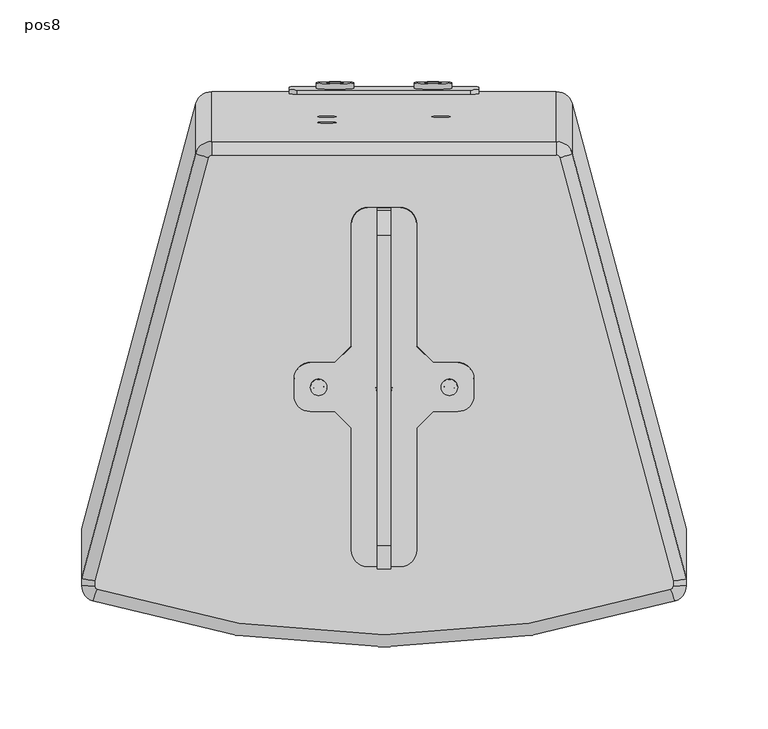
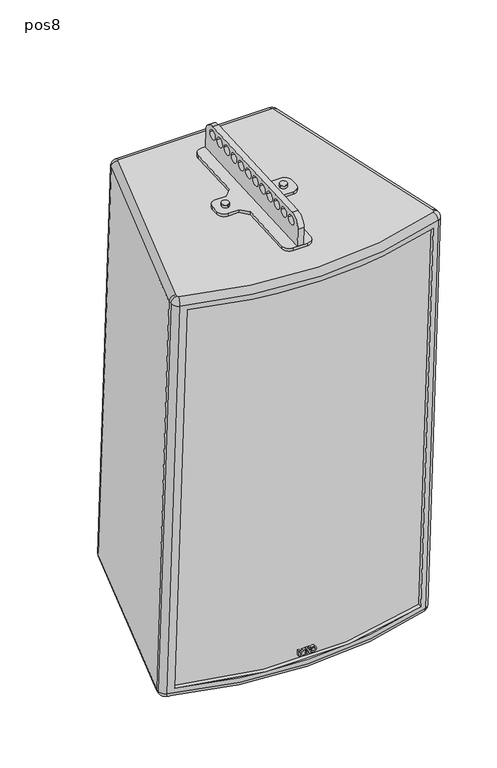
"""IFC4 building model written with IfcOpenShell, lengths in millimetres: proxy geometry, ePS12-BUMP-CVM : pos8."""

from ifc_helpers import new_model, si_unit, point, frame, frame_2d, origin, place, context, project, spatial, polyline, circle_curve, ellipse_curve, trimmed, segment, composite_curve, outline, extrude, source, transform, mapped, element, save
from ifc_brep_helpers import plane_surface, cylinder_surface, revolved_surface, advanced_brep


def pos8_c1b8ba12(model_context):
    return source(origin(), model_context, "Body", "SolidModel", [
        extrude(outline(composite_curve([segment(trimmed(circle_curve(frame_2d((0.0, -5.0)), 5.0), [point((0.0, -10.0))], [point((0.0, 0.0))], False, "CARTESIAN"), True, "CONTINUOUS"), segment(trimmed(circle_curve(frame_2d((0.0, -5.0)), 5.0), [point((0.0, 0.0))], [point((0.0, -10.0))], False, "CARTESIAN"), True, "CONTINUOUS")], self_intersect=False)), frame((-35.0511607, -24.6379572, -87.3310187), z_axis=(0.0, -0.05233595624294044, 0.998629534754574), x_axis=(0.0, -0.998629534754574, -0.05233595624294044)), (0.0, 0.0, 1.0), 4.0),
        extrude(outline(composite_curve([segment(trimmed(circle_curve(frame_2d((0.0, 75.1023214)), 5.0), [point((0.0, 80.1023214))], [point((0.0, 70.1023214))], False, "CARTESIAN"), True, "CONTINUOUS"), segment(trimmed(circle_curve(frame_2d((0.0, 75.1023214)), 5.0), [point((0.0, 70.1023214))], [point((0.0, 80.1023214))], False, "CARTESIAN"), True, "CONTINUOUS")], self_intersect=False)), frame((-35.0511607, -24.6379572, -87.3310187), z_axis=(0.0, -0.05233595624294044, 0.998629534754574), x_axis=(0.0, -0.998629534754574, -0.05233595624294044)), (0.0, 0.0, 1.0), 4.0),
        extrude(outline(composite_curve([segment(trimmed(circle_curve(frame_2d((68.8711137, -56.3947349)), 15.0), [point((68.0860744, -41.4152919))], [point((83.8505568, -55.6096956))], False, "CARTESIAN"), True, "CONTINUOUS"), segment(polyline([(83.8505568, -55.6096956), (85.2112916, -81.5740635), (-134.487206, -93.0879738), (-135.8479409, -67.1236059)]), True, "CONTINUOUS"), segment(trimmed(circle_curve(frame_2d((-120.8684979, -66.3385666)), 15.0), [point((-135.8479409, -67.1236059))], [point((-121.6535372, -51.3591236))], False, "CARTESIAN"), True, "CONTINUOUS"), segment(polyline([(-121.6535372, -51.3591236), (68.0860744, -41.4152919)]), True, "CONTINUOUS")], self_intersect=False), holes=[composite_curve([segment(trimmed(circle_curve(frame_2d((-34.1706235, -58.7908065)), 6.5), [point((-40.6617155, -59.1309902))], [point((-27.6795315, -58.4506228))], True, "CARTESIAN"), True, "CONTINUOUS"), segment(trimmed(circle_curve(frame_2d((-34.1706235, -58.7908065)), 6.5), [point((-27.6795315, -58.4506228))], [point((-40.6617155, -59.1309902))], True, "CARTESIAN"), True, "CONTINUOUS")], self_intersect=False), composite_curve([segment(trimmed(circle_curve(frame_2d((-51.2253435, -59.6846065)), 6.5), [point((-57.7164355, -60.0247902))], [point((-44.7342516, -59.3444228))], True, "CARTESIAN"), True, "CONTINUOUS"), segment(trimmed(circle_curve(frame_2d((-51.2253435, -59.6846065)), 6.5), [point((-44.7342516, -59.3444228))], [point((-57.7164355, -60.0247902))], True, "CARTESIAN"), True, "CONTINUOUS")], self_intersect=False), composite_curve([segment(trimmed(circle_curve(frame_2d((-68.2800636, -60.5784065)), 6.5), [point((-74.7711555, -60.9185902))], [point((-61.7889716, -60.2382228))], True, "CARTESIAN"), True, "CONTINUOUS"), segment(trimmed(circle_curve(frame_2d((-68.2800636, -60.5784065)), 6.5), [point((-61.7889716, -60.2382228))], [point((-74.7711555, -60.9185902))], True, "CARTESIAN"), True, "CONTINUOUS")], self_intersect=False), composite_curve([segment(trimmed(circle_curve(frame_2d((-85.3347836, -61.4722065)), 6.5), [point((-91.8258756, -61.8123902))], [point((-78.8436916, -61.1320228))], True, "CARTESIAN"), True, "CONTINUOUS"), segment(trimmed(circle_curve(frame_2d((-85.3347836, -61.4722065)), 6.5), [point((-78.8436916, -61.1320228))], [point((-91.8258756, -61.8123902))], True, "CARTESIAN"), True, "CONTINUOUS")], self_intersect=False), composite_curve([segment(trimmed(circle_curve(frame_2d((-102.3895036, -62.3660065)), 6.5), [point((-108.8805956, -62.7061902))], [point((-95.8984116, -62.0258228))], True, "CARTESIAN"), True, "CONTINUOUS"), segment(trimmed(circle_curve(frame_2d((-102.3895036, -62.3660065)), 6.5), [point((-95.8984116, -62.0258228))], [point((-108.8805956, -62.7061902))], True, "CARTESIAN"), True, "CONTINUOUS")], self_intersect=False), composite_curve([segment(trimmed(circle_curve(frame_2d((-119.4442236, -63.2598065)), 6.5), [point((-125.9353156, -63.5999902))], [point((-112.9531317, -62.9196228))], True, "CARTESIAN"), True, "CONTINUOUS"), segment(trimmed(circle_curve(frame_2d((-119.4442236, -63.2598065)), 6.5), [point((-112.9531317, -62.9196228))], [point((-125.9353156, -63.5999902))], True, "CARTESIAN"), True, "CONTINUOUS")], self_intersect=False), composite_curve([segment(trimmed(circle_curve(frame_2d((-17.0853118, -57.8954032)), 6.5), [point((-10.5942198, -57.5552195))], [point((-23.5764037, -58.235587))], True, "CARTESIAN"), True, "CONTINUOUS"), segment(trimmed(circle_curve(frame_2d((-17.0853118, -57.8954032)), 6.5), [point((-23.5764037, -58.235587))], [point((-10.5942198, -57.5552195))], True, "CARTESIAN"), True, "CONTINUOUS")], self_intersect=False), composite_curve([segment(trimmed(circle_curve(frame_2d((-0.0305917, -57.0016032)), 6.5), [point((6.4605002, -56.6614195))], [point((-6.5216837, -57.341787))], True, "CARTESIAN"), True, "CONTINUOUS"), segment(trimmed(circle_curve(frame_2d((-0.0305917, -57.0016032)), 6.5), [point((-6.5216837, -57.341787))], [point((6.4605002, -56.6614195))], True, "CARTESIAN"), True, "CONTINUOUS")], self_intersect=False), composite_curve([segment(trimmed(circle_curve(frame_2d((17.0241283, -56.1078032)), 6.5), [point((23.5152203, -55.7676195))], [point((10.5330363, -56.447987))], True, "CARTESIAN"), True, "CONTINUOUS"), segment(trimmed(circle_curve(frame_2d((17.0241283, -56.1078032)), 6.5), [point((10.5330363, -56.447987))], [point((23.5152203, -55.7676195))], True, "CARTESIAN"), True, "CONTINUOUS")], self_intersect=False), composite_curve([segment(trimmed(circle_curve(frame_2d((34.0788483, -55.2140032)), 6.5), [point((40.5699403, -54.8738195))], [point((27.5877563, -55.554187))], True, "CARTESIAN"), True, "CONTINUOUS"), segment(trimmed(circle_curve(frame_2d((34.0788483, -55.2140032)), 6.5), [point((27.5877563, -55.554187))], [point((40.5699403, -54.8738195))], True, "CARTESIAN"), True, "CONTINUOUS")], self_intersect=False), composite_curve([segment(trimmed(circle_curve(frame_2d((51.1335683, -54.3202032)), 6.5), [point((57.6246603, -53.9800195))], [point((44.6424764, -54.660387))], True, "CARTESIAN"), True, "CONTINUOUS"), segment(trimmed(circle_curve(frame_2d((51.1335683, -54.3202032)), 6.5), [point((44.6424764, -54.660387))], [point((57.6246603, -53.9800195))], True, "CARTESIAN"), True, "CONTINUOUS")], self_intersect=False), composite_curve([segment(trimmed(circle_curve(frame_2d((68.1882884, -53.4264032)), 6.5), [point((74.6793803, -53.0862195))], [point((61.6971964, -53.7665869))], True, "CARTESIAN"), True, "CONTINUOUS"), segment(trimmed(circle_curve(frame_2d((68.1882884, -53.4264032)), 6.5), [point((61.6971964, -53.7665869))], [point((74.6793803, -53.0862195))], True, "CARTESIAN"), True, "CONTINUOUS")], self_intersect=False)]), frame((-4.0, 0.0, 0.0), z_axis=(1.0, 0.0, 0.0), x_axis=(0.0, 1.0, 0.0)), (0.0, 0.0, 1.0), 8.0),
        extrude(outline(composite_curve([segment(polyline([(1.6568543, 0.0), (54.6898629, 53.0330086)]), True, "CONTINUOUS"), segment(trimmed(circle_curve(frame_2d((61.7609307, 45.9619408)), 10.0), [point((54.6898629, 53.0330086))], [point((68.8319985, 53.0330086))], False, "CARTESIAN"), True, "CONTINUOUS"), segment(polyline([(68.8319985, 53.0330086), (82.9741341, 38.8908729)]), True, "CONTINUOUS"), segment(trimmed(circle_curve(frame_2d((75.9030663, 31.8198051)), 10.0), [point((82.9741341, 38.8908729))], [point((82.9741341, 24.7487373))], False, "CARTESIAN"), True, "CONTINUOUS"), segment(polyline([(82.9741341, 24.7487373), (29.9411255, -28.2842712), (29.9411255, -42.4264069), (40.5477272, -53.0330086)]), True, "CONTINUOUS"), segment(trimmed(circle_curve(frame_2d((33.4766594, -60.1040764)), 10.0), [point((40.5477272, -53.0330086))], [point((40.5477272, -67.1751442))], False, "CARTESIAN"), True, "CONTINUOUS"), segment(polyline([(40.5477272, -67.1751442), (33.4766594, -74.2462121)]), True, "CONTINUOUS"), segment(trimmed(circle_curve(frame_2d((26.4055916, -67.1751443)), 10.0), [point((33.4766594, -74.2462121))], [point((19.3345238, -74.246212))], False, "CARTESIAN"), True, "CONTINUOUS"), segment(polyline([(19.3345238, -74.246212), (8.7279221, -63.6396103), (-5.4142136, -63.6396103), (-58.4472222, -116.6726189)]), True, "CONTINUOUS"), segment(trimmed(circle_curve(frame_2d((-65.51829, -109.6015511)), 10.0), [point((-58.4472222, -116.6726189))], [point((-72.5893577, -116.6726189))], False, "CARTESIAN"), True, "CONTINUOUS"), segment(polyline([(-72.5893577, -116.6726189), (-86.7314934, -102.5304833)]), True, "CONTINUOUS"), segment(trimmed(circle_curve(frame_2d((-79.6604256, -95.4594155)), 10.0), [point((-86.7314934, -102.5304833))], [point((-86.7314934, -88.3883477))], False, "CARTESIAN"), True, "CONTINUOUS"), segment(polyline([(-86.7314934, -88.3883477), (-33.6984848, -35.3553391), (-33.6984848, -21.2132034), (-44.3050865, -10.6066017)]), True, "CONTINUOUS"), segment(trimmed(circle_curve(frame_2d((-37.2340187, -3.5355339)), 10.0), [point((-44.3050865, -10.6066017))], [point((-44.3050865, 3.5355339))], False, "CARTESIAN"), True, "CONTINUOUS"), segment(polyline([(-44.3050865, 3.5355339), (-37.2340187, 10.6066017)]), True, "CONTINUOUS"), segment(trimmed(circle_curve(frame_2d((-30.1629509, 3.5355339)), 10.0), [point((-37.2340187, 10.6066017))], [point((-23.0918831, 10.6066017))], False, "CARTESIAN"), True, "CONTINUOUS"), segment(polyline([(-23.0918831, 10.6066017), (-12.4852814, 0.0), (1.6568543, 0.0)]), True, "CONTINUOUS")], self_intersect=False), holes=[composite_curve([segment(trimmed(circle_curve(frame_2d((-30.1702094, -3.5282754)), 3.0), [point((-32.2915298, -1.4069551))], [point((-28.0488891, -5.6495957))], True, "CARTESIAN"), True, "CONTINUOUS"), segment(trimmed(circle_curve(frame_2d((-30.1702094, -3.5282754)), 3.0), [point((-28.0488891, -5.6495957))], [point((-32.2915298, -1.4069551))], True, "CARTESIAN"), True, "CONTINUOUS")], self_intersect=False), composite_curve([segment(trimmed(circle_curve(frame_2d((26.4128501, -60.1113349)), 3.0), [point((28.5341705, -62.2326553))], [point((24.2915298, -57.9900146))], True, "CARTESIAN"), True, "CONTINUOUS"), segment(trimmed(circle_curve(frame_2d((26.4128501, -60.1113349)), 3.0), [point((24.2915298, -57.9900146))], [point((28.5341705, -62.2326553))], True, "CARTESIAN"), True, "CONTINUOUS")], self_intersect=False)]), frame((-21.1715729, -0.6328423, -90.0784533), z_axis=(0.0, -0.05233595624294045, 0.998629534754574), x_axis=(0.7071067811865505, 0.7061377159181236, 0.03700710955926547)), (0.0, 0.0, 1.0), 4.0),
        extrude(outline(composite_curve([segment(trimmed(circle_curve(frame_2d((3.670838, -20.0113735)), 3.9406238), [point((3.670838, -16.0707497))], [point((3.670838, -23.9519974))], False, "CARTESIAN"), True, "CONTINUOUS"), segment(trimmed(circle_curve(frame_2d((3.670838, -20.0113735)), 3.9406238), [point((3.670838, -23.9519974))], [point((3.670838, -16.0707497))], False, "CARTESIAN"), True, "CONTINUOUS")], self_intersect=False), holes=[composite_curve([segment(trimmed(circle_curve(frame_2d((3.670838, -20.0113735)), 2.0681078), [point((3.670838, -17.9432657))], [point((3.670838, -22.0794813))], True, "CARTESIAN"), True, "CONTINUOUS"), segment(trimmed(circle_curve(frame_2d((3.670838, -20.0113735)), 2.0681078), [point((3.670838, -22.0794813))], [point((3.670838, -17.9432657))], True, "CARTESIAN"), True, "CONTINUOUS")], self_intersect=False)]), frame((-11.9363528, -152.2819405, -669.3681033), z_axis=(0.0, 0.998629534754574, 0.05233595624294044), x_axis=(0.0, 0.05233595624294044, -0.998629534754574)), (0.0, 0.0, 1.0), 3.5087945),
        extrude(outline(polyline([(0.0, 0.0), (7.2797671, 0.0), (7.2797671, -1.8923673), (3.1144368, -1.8923673), (7.2797671, -4.6674642), (7.2797671, -11.5183739), (5.4047959, -12.8369462), (3.8052625, -11.7735691), (5.6771026, -10.4040265), (5.6771026, -7.3703972), (4.4228152, -7.3703972), (4.4228152, -9.6535101), (2.820085, -9.6535101), (2.820085, -7.3703972), (1.6035818, -7.3703972), (1.6035818, -9.7774719), (0.8035818, -9.7774719), (0.0008516, -9.2438132), (0.0008516, -4.9754371), (4.4509075, -4.9657455), (0.0, -2.0264794), (0.0, 0.0)])), frame((-11.9363528, -152.2819405, -669.3681033), z_axis=(0.0, 0.998629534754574, 0.05233595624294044), x_axis=(0.0, 0.05233595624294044, -0.998629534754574)), (0.0, 0.0, 1.0), 3.5087945),
        extrude(outline(polyline([(0.0, -9.8851283), (8.2409468, -15.3637475), (8.2409468, -17.5569502), (0.0, -12.078331), (0.0, -9.8851283)])), frame((-11.9363528, -152.2819405, -669.3681033), z_axis=(0.0, 0.998629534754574, 0.05233595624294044), x_axis=(0.0, 0.05233595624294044, -0.998629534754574)), (0.0, 0.0, 1.0), 3.5087945),
        extrude(outline(polyline([(0.0, -16.6257623), (0.0, -14.2989718), (1.267957, -13.5511775), (2.8988509, -14.6354032), (0.0, -16.6257623)])), frame((-11.9363528, -152.2819405, -669.3681033), z_axis=(0.0, 0.998629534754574, 0.05233595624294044), x_axis=(0.0, 0.05233595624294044, -0.998629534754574)), (0.0, 0.0, 1.0), 3.5087945),
        extrude(outline(composite_curve([segment(trimmed(circle_curve(frame_2d((0.0, -55.0)), 11.4515227), [point((0.0, -43.5484773))], [point((0.0, -66.4515227))], False, "CARTESIAN"), True, "CONTINUOUS"), segment(trimmed(circle_curve(frame_2d((0.0, -55.0)), 11.4515227), [point((0.0, -66.4515227))], [point((0.0, -43.5484773))], False, "CARTESIAN"), True, "CONTINUOUS")], self_intersect=False), holes=[composite_curve([segment(trimmed(circle_curve(frame_2d((0.0, -55.0)), 5.0), [point((0.0, -50.0))], [point((0.0, -60.0))], True, "CARTESIAN"), True, "CONTINUOUS"), segment(trimmed(circle_curve(frame_2d((0.0, -55.0)), 5.0), [point((0.0, -60.0))], [point((0.0, -50.0))], True, "CARTESIAN"), True, "CONTINUOUS")], self_intersect=False)]), frame((25.0, 158.3946012, -645.0161227), z_axis=(0.0, 0.998629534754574, 0.05233595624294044), x_axis=(0.0, -0.05233595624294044, 0.998629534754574)), (0.0, 0.0, 1.0), 3.4052646),
        extrude(outline(composite_curve([segment(trimmed(circle_curve(frame_2d((0.0, 5.0)), 11.4515227), [point((0.0, 16.4515227))], [point((0.0, -6.4515227))], False, "CARTESIAN"), True, "CONTINUOUS"), segment(trimmed(circle_curve(frame_2d((0.0, 5.0)), 11.4515227), [point((0.0, -6.4515227))], [point((0.0, 16.4515227))], False, "CARTESIAN"), True, "CONTINUOUS")], self_intersect=False), holes=[composite_curve([segment(trimmed(circle_curve(frame_2d((0.0, 5.0)), 5.0), [point((0.0, 10.0))], [point((0.0, 0.0))], True, "CARTESIAN"), True, "CONTINUOUS"), segment(trimmed(circle_curve(frame_2d((0.0, 5.0)), 5.0), [point((0.0, 0.0))], [point((0.0, 10.0))], True, "CARTESIAN"), True, "CONTINUOUS")], self_intersect=False)]), frame((25.0, 158.3946012, -645.0161227), z_axis=(0.0, 0.998629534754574, 0.05233595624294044), x_axis=(0.0, -0.05233595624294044, 0.998629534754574)), (0.0, 0.0, 1.0), 3.4052646),
        extrude(outline(composite_curve([segment(polyline([(-4.9999999, -5.0), (-4.9999999, 101.0)]), True, "CONTINUOUS"), segment(trimmed(circle_curve(frame_2d((0.0, 101.0)), 5.0), [point((-4.9999999, 101.0))], [point((0.0, 106.0))], False, "CARTESIAN"), True, "CONTINUOUS"), segment(polyline([(0.0, 106.0), (28.0, 106.0)]), True, "CONTINUOUS"), segment(trimmed(circle_curve(frame_2d((28.0, 101.0)), 5.0), [point((28.0, 106.0))], [point((33.0000001, 101.0))], False, "CARTESIAN"), True, "CONTINUOUS"), segment(polyline([(33.0000001, 101.0), (33.0000001, -5.0)]), True, "CONTINUOUS"), segment(trimmed(circle_curve(frame_2d((28.0, -5.0)), 5.0), [point((33.0000001, -5.0))], [point((28.0, -10.0))], False, "CARTESIAN"), True, "CONTINUOUS"), segment(polyline([(28.0, -10.0), (0.0, -10.0)]), True, "CONTINUOUS"), segment(trimmed(circle_curve(frame_2d((0.0, -5.0)), 5.0), [point((0.0, -10.0))], [point((-4.9999999, -5.0))], False, "CARTESIAN"), True, "CONTINUOUS")], self_intersect=False)), frame((48.0, 155.165324, -631.1661491), z_axis=(0.0, 0.998629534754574, 0.05233595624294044), x_axis=(0.0, 0.05233595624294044, -0.998629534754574)), (0.0, 0.0, 1.0), 2.5),
        advanced_brep(
        [(0.0, -29.2124172, -95.5817347), (0.0, -19.2261219, -95.0583752), (0.0, -19.4354657, -91.063857), (0.0, -29.4217611, -91.5872166), (40.0, -29.2124172, -95.5817347), (40.0, -19.2261219, -95.0583752), (40.0, -19.4354657, -91.063857), (40.0, -29.4217611, -91.5872166), (-170.0, -157.8588944, -113.3389067), (-170.0, -152.6821623, -113.0676057), (170.0, -152.6821623, -113.0676057), (170.0, -157.8588944, -113.3389067), (170.0, -128.0273994, -682.5577415), (170.0, -122.8506672, -682.2864405), (-170.0, -122.8506672, -682.2864405), (-170.0, -128.0273994, -682.5577415), (0.0, 11.7567642, -686.2470597), (0.0, 1.7704689, -686.7704193), (-40.0, 11.7567642, -686.2470597), (-40.0, 1.7704689, -686.7704193), (40.0, 11.7567642, -686.2470597), (40.0, 1.7704689, -686.7704193), (-185.0, -141.8958876, -105.4927145), (-115.1756048, 118.3351758, -91.8545824), (-115.1756048, 148.8993742, -675.0542307), (-185.0, -111.3316892, -688.6923628), (-185.0, -146.1682085, -105.7166174), (-185.0, -115.6040101, -688.9162657), (178.0902391, -155.6657174, -106.2143607), (-178.0902391, -155.6657174, -106.2143607), (-178.0902391, -125.1015187, -689.4140127), (178.0902391, -125.1015189, -689.414009), (185.0, -141.8958876, -105.4927145), (185.0, -146.1682085, -105.7166174), (185.0, -115.6040101, -688.9162657), (185.0, -111.3316892, -688.6923628), (115.1756048, 118.3351758, -91.8545824), (115.1756048, 148.8993742, -675.0542307), (105.5163465, 125.7368277, -91.4666783), (105.5163465, 156.3010261, -674.6663266), (-40.6566026, 132.4099391, -313.4216161), (-29.3432823, 132.4099391, -313.4216161), (-29.3432823, 137.35541, -313.162435), (-40.6566026, 137.35541, -313.162435), (177.0, -146.5868962, -97.7275811), (175.6180478, -148.486398, -97.8271298), (-175.6180478, -148.486398, -97.8271298), (-177.0, -146.5868962, -97.7275811), (-177.0, -143.3663519, -97.5587995), (-107.4481982, 115.8487734, -83.9739105), (-105.5163465, 117.3291037, -83.8963296), (-105.5163465, 125.7368277, -91.4666783), (105.5163465, 117.3291037, -83.8963296), (107.4481982, 115.8487734, -83.9739105), (177.0, -143.3663519, -97.5587995), (-40.0, -29.4217611, -91.5872166), (-40.0, -19.4354657, -91.063857), (105.5163465, 148.7306775, -683.0740505), (107.4481982, 147.2503471, -683.1516313), (177.0, -111.9647781, -696.7365204), (177.0, -115.1853224, -696.905302), (175.6180478, -117.0848242, -697.0048506), (-175.6180478, -117.0848242, -697.0048506), (-177.0, -115.1853224, -696.905302), (-177.0, -111.9647781, -696.7365204), (-107.4481982, 147.2503471, -683.1516313), (-105.5163465, 148.7306775, -683.0740505), (0.0, 11.966108, -690.2415779), (0.0, 1.9798127, -690.7649374), (-40.0, 11.966108, -690.2415779), (-40.0, 1.9798127, -690.7649374), (40.0, 11.966108, -690.2415779), (40.0, 1.9798127, -690.7649374), (-40.0, -19.2261219, -95.0583752), (-40.0, -29.2124172, -95.5817347), (40.6567177, 136.073456, -383.3256836), (29.3433974, 136.073456, -383.3256836), (-29.3432823, 136.073456, -383.3256836), (-40.6566026, 136.073456, -383.3256836), (29.3433974, 141.0189269, -383.0665024), (40.6567177, 141.0189269, -383.0665024), (-105.5163465, 156.3010261, -674.6663266), (-29.3432823, 141.0189269, -383.0665024), (-40.6566026, 141.0189269, -383.0665024)],
        [
            (0, 1, circle_curve(frame((0.0, -24.2192696, -95.3200549), z_axis=(0.0, 0.05233595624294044, -0.998629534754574), x_axis=(0.0, -0.998629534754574, -0.05233595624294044)), 5.0)),
            (1, 2),
            (2, 3, circle_curve(frame((0.0, -24.4286134, -91.3255368), z_axis=(0.0, -0.05233595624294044, 0.998629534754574), x_axis=(0.0, -0.998629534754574, -0.05233595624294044)), 5.0)),
            (3, 0),
            (4, 5, circle_curve(frame((40.0, -24.2192696, -95.3200549), z_axis=(0.0, 0.05233595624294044, -0.998629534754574), x_axis=(0.0, -0.998629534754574, -0.05233595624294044)), 5.0)),
            (5, 6),
            (6, 7, circle_curve(frame((40.0, -24.4286134, -91.3255368), z_axis=(0.0, -0.05233595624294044, 0.998629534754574), x_axis=(0.0, -0.998629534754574, -0.05233595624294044)), 5.0)),
            (7, 4),
            (8, 9),
            (9, 10, circle_curve(frame((0.0, 398.5334636, -84.1796188), z_axis=(0.0, -0.05233595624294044, 0.998629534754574), x_axis=(1.0, 0.0, 0.0)), 577.5579469)),
            (10, 11),
            (11, 8, circle_curve(frame((0.0, 392.0413339, -84.5198569), z_axis=(0.0, 0.05233595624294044, -0.998629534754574), x_axis=(1.0, 0.0, 0.0)), 576.2992267)),
            (12, 13),
            (13, 14, circle_curve(frame((0.0, 428.3649587, -653.3984536), z_axis=(0.0, 0.05233595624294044, -0.998629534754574), x_axis=(1.0, 0.0, 0.0)), 577.5579469)),
            (14, 15),
            (15, 12, circle_curve(frame((0.0, 421.8728289, -653.7386917), z_axis=(0.0, -0.05233595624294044, 0.998629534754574), x_axis=(1.0, 0.0, 0.0)), 576.2992267)),
            (16, 17, circle_curve(frame((0.0, 6.7636165, -686.5087395), z_axis=(0.0, 0.05233595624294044, -0.998629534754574), x_axis=(0.0, -0.998629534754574, -0.05233595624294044)), 5.0)),
            (17, 16, circle_curve(frame((0.0, 6.7636165, -686.5087395), z_axis=(0.0, 0.05233595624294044, -0.998629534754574), x_axis=(0.0, -0.998629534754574, -0.05233595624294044)), 5.0)),
            (18, 19, circle_curve(frame((-40.0, 6.7636165, -686.5087395), z_axis=(0.0, 0.05233595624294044, -0.998629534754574), x_axis=(0.0, -0.998629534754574, -0.05233595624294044)), 5.0)),
            (19, 18, circle_curve(frame((-40.0, 6.7636165, -686.5087395), z_axis=(0.0, 0.05233595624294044, -0.998629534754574), x_axis=(0.0, -0.998629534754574, -0.05233595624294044)), 5.0)),
            (20, 21, circle_curve(frame((40.0, 6.7636165, -686.5087395), z_axis=(0.0, 0.05233595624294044, -0.998629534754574), x_axis=(0.0, -0.998629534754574, -0.05233595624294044)), 5.0)),
            (21, 20, circle_curve(frame((40.0, 6.7636165, -686.5087395), z_axis=(0.0, 0.05233595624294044, -0.998629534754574), x_axis=(0.0, -0.998629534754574, -0.05233595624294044)), 5.0)),
            (22, 23),
            (23, 24),
            (24, 25),
            (25, 22),
            (26, 22),
            (25, 27),
            (27, 26),
            (28, 29, circle_curve(frame((0.0, 391.6749822, -77.5294502), z_axis=(0.0, 0.05233595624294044, -0.998629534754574), x_axis=(1.0, 0.0, 0.0)), 576.2992267)),
            (29, 30),
            (30, 31, circle_curve(frame((0.0, 422.2391806, -660.7290985), z_axis=(0.0, -0.05233595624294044, 0.998629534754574), x_axis=(1.0, 0.0, 0.0)), 576.2992267)),
            (31, 28),
            (11, 12),
            (15, 8),
            (32, 33),
            (33, 34),
            (34, 35),
            (35, 32),
            (36, 32),
            (35, 37),
            (37, 36),
            (38, 36, circle_curve(frame((105.5163465, 115.7505323, -91.9900378), z_axis=(0.0, 0.05233595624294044, -0.998629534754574), x_axis=(1.0, 0.0, 0.0)), 10.0)),
            (37, 39, circle_curve(frame((105.5163465, 146.3147308, -675.1896861), z_axis=(0.0, -0.05233595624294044, 0.998629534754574), x_axis=(1.0, 0.0, 0.0)), 10.0)),
            (39, 38),
            (40, 41, circle_curve(frame((-34.9999424, 132.4099391, -313.4216161), z_axis=(0.0, -0.998629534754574, -0.05233595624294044), x_axis=(-1.0, 0.0, 0.0)), 5.6566602)),
            (41, 42),
            (42, 43, circle_curve(frame((-34.9999424, 137.35541, -313.162435), z_axis=(0.0, 0.998629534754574, 0.05233595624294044), x_axis=(-1.0, 0.0, 0.0)), 5.6566602)),
            (43, 40),
            (41, 40, circle_curve(frame((-34.9999424, 132.4099391, -313.4216161), z_axis=(0.0, -0.998629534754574, -0.05233595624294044), x_axis=(-1.0, 0.0, 0.0)), 5.6566602)),
            (43, 42, circle_curve(frame((-34.9999424, 137.35541, -313.162435), z_axis=(0.0, 0.998629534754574, 0.05233595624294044), x_axis=(-1.0, 0.0, 0.0)), 5.6566602)),
            (10, 13),
            (33, 44, circle_curve(frame((177.0, -146.1682085, -105.7166174), z_axis=(0.0, -0.998629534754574, -0.05233595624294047), x_axis=(1.0, 0.0, 0.0)), 8.0)),
            (44, 45, circle_curve(frame((175.0, -146.5868962, -97.7275811), z_axis=(0.0, 0.05233595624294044, -0.998629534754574), x_axis=(1.0, 0.0, 0.0)), 2.0)),
            (45, 28, circle_curve(frame((175.6180478, -148.0677103, -105.8161661), z_axis=(0.9510542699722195, 0.30860040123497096, 0.016173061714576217), x_axis=(0.3090239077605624, -0.9497508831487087, -0.04977433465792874)), 8.0)),
            (28, 33, circle_curve(frame((175.0, -146.1682085, -105.7166174), z_axis=(0.0, -0.05233595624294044, 0.998629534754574), x_axis=(1.0, 0.0, 0.0)), 10.0)),
            (45, 46, circle_curve(frame((0.0, 391.2562945, -69.5404139), z_axis=(0.0, 0.05233595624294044, -0.998629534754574), x_axis=(0.30902390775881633, -0.9497508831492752, -0.049774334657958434)), 568.2992267)),
            (46, 29, circle_curve(frame((-175.6180478, -148.0677103, -105.8161661), z_axis=(0.9510542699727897, -0.30860040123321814, -0.016173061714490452), x_axis=(-0.30902390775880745, -0.9497508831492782, -0.04977433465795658)), 8.0)),
            (46, 47, circle_curve(frame((-175.0, -146.5868962, -97.7275811), z_axis=(0.0, 0.05233595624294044, -0.998629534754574), x_axis=(-0.3090239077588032, -0.9497508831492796, -0.049774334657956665)), 2.0)),
            (47, 26, circle_curve(frame((-177.0, -146.1682085, -105.7166174), z_axis=(0.0, -0.9986295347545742, -0.052335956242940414), x_axis=(-1.0, 0.0, 0.0)), 8.0)),
            (26, 29, circle_curve(frame((-175.0, -146.1682085, -105.7166174), z_axis=(0.0, -0.05233595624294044, 0.998629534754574), x_axis=(-0.3090239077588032, -0.9497508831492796, -0.049774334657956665)), 10.0)),
            (47, 48),
            (48, 22, ellipse_curve(frame((-177.0, -142.9476642, -105.5478358), z_axis=(-0.13052619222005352, -0.9900861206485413, -0.05188821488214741), x_axis=(-0.9914448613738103, 0.13034731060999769, 0.006831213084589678)), 8.0690317, 8.0)),
            (48, 49),
            (49, 23, circle_curve(frame((-107.4481982, 116.267461, -91.9629468), z_axis=(-0.2588190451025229, -0.9646020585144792, -0.050552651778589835), x_axis=(-0.9659258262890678, 0.2584643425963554, 0.01354554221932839)), 8.0)),
            (49, 50, circle_curve(frame((-105.5163465, 115.3318447, -84.0010016), z_axis=(0.0, 0.05233595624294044, -0.998629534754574), x_axis=(-0.9659258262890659, 0.2584643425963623, 0.013545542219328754)), 2.0)),
            (50, 51, circle_curve(frame((-105.5163465, 117.7477914, -91.8853659), z_axis=(-1.0, 0.0, 0.0), x_axis=(0.0, 0.9986295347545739, 0.05233595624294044)), 8.0)),
            (51, 23, circle_curve(frame((-105.5163465, 115.7505323, -91.9900378), z_axis=(0.0, -0.05233595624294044, 0.998629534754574), x_axis=(-0.9659258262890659, 0.2584643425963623, 0.013545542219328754)), 10.0)),
            (52, 38, circle_curve(frame((105.5163465, 117.7477914, -91.8853659), z_axis=(-1.0, 0.0, 0.0), x_axis=(0.0, 0.998629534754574, 0.05233595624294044)), 8.0)),
            (38, 51),
            (50, 52),
            (53, 52, circle_curve(frame((105.5163465, 115.3318447, -84.0010016), z_axis=(0.0, -0.05233595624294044, 0.998629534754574), x_axis=(0.0, 0.998629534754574, 0.05233595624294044)), 2.0)),
            (44, 54),
            (54, 53),
            (2, 3, circle_curve(frame((0.0, -24.4286134, -91.3255368), z_axis=(0.0, 0.05233595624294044, -0.998629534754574), x_axis=(0.0, -0.998629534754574, -0.05233595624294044)), 5.0)),
            (55, 56, circle_curve(frame((-40.0, -24.4286134, -91.3255368), z_axis=(0.0, 0.05233595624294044, -0.998629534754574), x_axis=(0.0, -0.998629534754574, -0.05233595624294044)), 5.0)),
            (56, 55, circle_curve(frame((-40.0, -24.4286134, -91.3255368), z_axis=(0.0, 0.05233595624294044, -0.998629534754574), x_axis=(0.0, -0.998629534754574, -0.05233595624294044)), 5.0)),
            (6, 7, circle_curve(frame((40.0, -24.4286134, -91.3255368), z_axis=(0.0, 0.05233595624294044, -0.998629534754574), x_axis=(0.0, -0.998629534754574, -0.05233595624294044)), 5.0)),
            (57, 58, circle_curve(frame((105.5163465, 146.7334184, -683.1787224), z_axis=(0.0, 0.05233595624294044, -0.998629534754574), x_axis=(0.0, 0.998629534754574, 0.05233595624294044)), 2.0)),
            (58, 59),
            (59, 60),
            (60, 61, circle_curve(frame((175.0, -115.1853224, -696.905302), z_axis=(0.0, 0.05233595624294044, -0.998629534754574), x_axis=(1.0, 0.0, 0.0)), 2.0)),
            (61, 62, circle_curve(frame((0.0, 422.6578683, -668.7181347), z_axis=(0.0, 0.05233595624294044, -0.998629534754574), x_axis=(0.30902390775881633, -0.9497508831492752, -0.049774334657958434)), 568.2992267)),
            (62, 63, circle_curve(frame((-175.0, -115.1853224, -696.905302), z_axis=(0.0, 0.05233595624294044, -0.998629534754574), x_axis=(-0.30902390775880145, -0.9497508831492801, -0.0497743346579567)), 2.0)),
            (63, 64),
            (64, 65),
            (65, 66, circle_curve(frame((-105.5163465, 146.7334184, -683.1787224), z_axis=(0.0, 0.05233595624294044, -0.998629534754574), x_axis=(-0.9659258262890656, 0.2584643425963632, 0.013545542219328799)), 2.0)),
            (66, 57),
            (67, 68, circle_curve(frame((0.0, 6.9729604, -690.5032576), z_axis=(0.0, -0.05233595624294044, 0.998629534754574), x_axis=(0.0, -0.998629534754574, -0.05233595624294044)), 5.0)),
            (68, 67, circle_curve(frame((0.0, 6.9729604, -690.5032576), z_axis=(0.0, -0.05233595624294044, 0.998629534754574), x_axis=(0.0, -0.998629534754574, -0.05233595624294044)), 5.0)),
            (69, 70, circle_curve(frame((-40.0, 6.9729604, -690.5032576), z_axis=(0.0, -0.05233595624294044, 0.998629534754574), x_axis=(0.0, -0.998629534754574, -0.05233595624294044)), 5.0)),
            (70, 69, circle_curve(frame((-40.0, 6.9729604, -690.5032576), z_axis=(0.0, -0.05233595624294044, 0.998629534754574), x_axis=(0.0, -0.998629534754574, -0.05233595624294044)), 5.0)),
            (71, 72, circle_curve(frame((40.0, 6.9729604, -690.5032576), z_axis=(0.0, -0.05233595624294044, 0.998629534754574), x_axis=(0.0, -0.998629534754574, -0.05233595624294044)), 5.0)),
            (72, 71, circle_curve(frame((40.0, 6.9729604, -690.5032576), z_axis=(0.0, -0.05233595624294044, 0.998629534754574), x_axis=(0.0, -0.998629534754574, -0.05233595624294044)), 5.0)),
            (0, 1, circle_curve(frame((0.0, -24.2192696, -95.3200549), z_axis=(0.0, -0.05233595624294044, 0.998629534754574), x_axis=(0.0, -0.998629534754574, -0.05233595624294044)), 5.0)),
            (73, 74, circle_curve(frame((-40.0, -24.2192696, -95.3200549), z_axis=(0.0, -0.05233595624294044, 0.998629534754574), x_axis=(0.0, -0.998629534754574, -0.05233595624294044)), 5.0)),
            (74, 73, circle_curve(frame((-40.0, -24.2192696, -95.3200549), z_axis=(0.0, -0.05233595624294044, 0.998629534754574), x_axis=(0.0, -0.998629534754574, -0.05233595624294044)), 5.0)),
            (4, 5, circle_curve(frame((40.0, -24.2192696, -95.3200549), z_axis=(0.0, -0.05233595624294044, 0.998629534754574), x_axis=(0.0, -0.998629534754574, -0.05233595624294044)), 5.0)),
            (17, 68),
            (67, 16),
            (19, 70),
            (69, 18),
            (21, 72),
            (71, 20),
            (75, 76, circle_curve(frame((35.0000576, 136.073456, -383.3256836), z_axis=(0.0, 0.998629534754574, 0.05233595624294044), x_axis=(-1.0, 0.0, 0.0)), 5.6566602)),
            (76, 75, circle_curve(frame((35.0000576, 136.073456, -383.3256836), z_axis=(0.0, 0.998629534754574, 0.05233595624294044), x_axis=(-1.0, 0.0, 0.0)), 5.6566602)),
            (77, 78, circle_curve(frame((-34.9999424, 136.073456, -383.3256836), z_axis=(0.0, 0.998629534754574, 0.05233595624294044), x_axis=(-1.0, 0.0, 0.0)), 5.6566602)),
            (78, 77, circle_curve(frame((-34.9999424, 136.073456, -383.3256836), z_axis=(0.0, 0.998629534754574, 0.05233595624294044), x_axis=(-1.0, 0.0, 0.0)), 5.6566602)),
            (76, 79),
            (79, 80, circle_curve(frame((35.0000576, 141.0189269, -383.0665024), z_axis=(0.0, 0.998629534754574, 0.05233595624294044), x_axis=(-1.0, 0.0, 0.0)), 5.6566602)),
            (80, 75),
            (80, 79, circle_curve(frame((35.0000576, 141.0189269, -383.0665024), z_axis=(0.0, 0.998629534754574, 0.05233595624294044), x_axis=(-1.0, 0.0, 0.0)), 5.6566602)),
            (39, 81),
            (81, 51),
            (82, 83, circle_curve(frame((-34.9999424, 141.0189269, -383.0665024), z_axis=(0.0, -0.998629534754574, -0.05233595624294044), x_axis=(-1.0, 0.0, 0.0)), 5.6566602)),
            (83, 82, circle_curve(frame((-34.9999424, 141.0189269, -383.0665024), z_axis=(0.0, -0.998629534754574, -0.05233595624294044), x_axis=(-1.0, 0.0, 0.0)), 5.6566602)),
            (9, 14),
            (27, 30, circle_curve(frame((-175.0, -115.6040101, -688.9162657), z_axis=(0.0, -0.05233595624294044, 0.998629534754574), x_axis=(1.0, 0.0, 0.0)), 10.0)),
            (31, 34, circle_curve(frame((175.0, -115.6040101, -688.9162657), z_axis=(0.0, -0.05233595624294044, 0.998629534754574), x_axis=(1.0, 0.0, 0.0)), 10.0)),
            (53, 36, circle_curve(frame((107.4481982, 116.267461, -91.9629468), z_axis=(-0.2588190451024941, 0.9646020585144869, 0.05055265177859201), x_axis=(0.9659258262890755, 0.25846434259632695, 0.01354554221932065)), 8.0)),
            (54, 32, ellipse_curve(frame((177.0, -142.9476642, -105.5478358), z_axis=(-0.13052619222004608, 0.9900861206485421, 0.0518882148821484), x_axis=(0.9914448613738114, 0.13034731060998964, 0.006831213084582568)), 8.0690317, 8.0)),
            (61, 31, circle_curve(frame((175.6180478, -117.5035119, -689.0158144), z_axis=(-0.9510542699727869, -0.3086004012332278, -0.01617306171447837), x_axis=(0.30902390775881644, -0.9497508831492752, -0.04977433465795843)), 8.0)),
            (30, 62, circle_curve(frame((-175.6180478, -117.5035119, -689.0158144), z_axis=(0.9510542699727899, -0.3086004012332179, -0.01617306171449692), x_axis=(-0.30902390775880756, -0.9497508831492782, -0.04977433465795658)), 8.0)),
            (27, 63, circle_curve(frame((-177.0, -115.6040101, -688.9162657), z_axis=(0.0, -0.9986295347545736, -0.052335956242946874), x_axis=(-0.9999999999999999, 0.0, 0.0)), 8.0)),
            (25, 64, ellipse_curve(frame((-177.0, -112.3834658, -688.7474841), z_axis=(-0.13052619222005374, -0.9900861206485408, -0.051888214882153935), x_axis=(-0.99144486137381, 0.13034731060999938, 0.006831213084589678)), 8.0690317, 8.0)),
            (24, 65, circle_curve(frame((-107.4481982, 146.8316595, -675.162595), z_axis=(-0.2588190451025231, -0.9646020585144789, -0.0505526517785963), x_axis=(-0.9659258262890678, 0.25846434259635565, 0.013545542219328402)), 8.0)),
            (24, 81, circle_curve(frame((-105.5163465, 146.3147308, -675.1896861), z_axis=(0.0, 0.05233595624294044, -0.998629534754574), x_axis=(-0.9659258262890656, 0.2584643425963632, 0.013545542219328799)), 10.0)),
            (81, 66, circle_curve(frame((-105.5163465, 148.3119898, -675.0850142), z_axis=(-1.0, 0.0, 0.0), x_axis=(0.0, 0.9986295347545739, 0.05233595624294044)), 8.0)),
            (39, 57, circle_curve(frame((105.5163465, 148.3119898, -675.0850142), z_axis=(-1.0, 0.0, 0.0), x_axis=(0.0, 0.998629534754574, 0.05233595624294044)), 8.0)),
            (73, 56),
            (55, 74),
            (78, 83),
            (82, 77),
            (37, 58, circle_curve(frame((107.4481982, 146.8316595, -675.162595), z_axis=(-0.2588190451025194, 0.9646020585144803, 0.050552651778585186), x_axis=(0.9659258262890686, 0.25846434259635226, 0.013545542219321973)), 8.0)),
            (35, 59, ellipse_curve(frame((177.0, -112.3834658, -688.7474841), z_axis=(-0.1305261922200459, 0.9900861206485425, 0.05188821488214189), x_axis=(0.9914448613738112, 0.13034731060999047, 0.006831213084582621)), 8.0690317, 8.0)),
            (34, 60, circle_curve(frame((177.0, -115.6040101, -688.9162657), z_axis=(0.0, 0.9986295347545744, 0.05233595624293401), x_axis=(1.0, 0.0, 0.0)), 8.0)),
        ],
        [
            revolved_surface(polyline([(0.0, -29.421761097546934, -91.58721656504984), (0.0, -29.21241726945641, -95.58173476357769)]), (0.0, -24.2192696, -95.3200549), (0.0, -0.05233595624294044, 0.998629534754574)),
            revolved_surface(polyline([(40.0, -29.42176107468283, -91.5872165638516), (40.0, -29.212417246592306, -95.58173476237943)]), (40.0, -24.4286134, -91.3255368), (0.0, -0.05233595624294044, 0.998629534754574)),
            plane_surface(frame((170.0, -157.8588944, -113.3389067), z_axis=(0.0, 0.05233595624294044, -0.998629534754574), x_axis=(0.0, 0.998629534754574, 0.05233595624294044))),
            plane_surface(frame((170.0, -128.0273994, -682.5577415), z_axis=(0.0, -0.05233595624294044, 0.998629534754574), x_axis=(0.0, -0.998629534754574, -0.05233595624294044))),
            plane_surface(frame((0.0, 1.7704689, -686.7704193), z_axis=(0.0, 0.05233595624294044, -0.998629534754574), x_axis=(1.0, 0.0, 0.0))),
            plane_surface(frame((-115.1756048, 117.9164881, -83.8655461), z_axis=(-0.9659258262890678, 0.2584643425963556, 0.013545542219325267), x_axis=(0.0, 0.05233595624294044, -0.998629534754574))),
            plane_surface(frame((-185.0, -142.3145753, -97.5036783), z_axis=(-1.0, 0.0, 0.0), x_axis=(0.0, 0.05233595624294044, -0.998629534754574))),
            cylinder_surface(frame((0.0, 422.6578683, -668.7181347), z_axis=(0.0, -0.05233595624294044, 0.998629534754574), x_axis=(1.0, 0.0, 0.0)), 576.2992267),
            plane_surface(frame((185.0, -146.5868962, -97.7275811), z_axis=(1.0, 0.0, 0.0), x_axis=(0.0, 0.05233595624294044, -0.998629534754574))),
            plane_surface(frame((185.0, -142.3145753, -97.5036783), z_axis=(0.9659258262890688, 0.2584643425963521, 0.013545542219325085), x_axis=(0.0, 0.05233595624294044, -0.998629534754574))),
            cylinder_surface(frame((105.5163465, 146.7334184, -683.1787224), z_axis=(0.0, -0.05233595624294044, 0.998629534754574), x_axis=(1.0, 0.0, 0.0)), 10.0),
            revolved_surface(polyline([(-40.6566026, 137.3554100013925, -313.1624350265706), (-40.6566026, 132.40993910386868, -313.42161617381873)]), (-34.9999424, 144.3934935, -312.7935847), (0.0, 0.998629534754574, 0.05233595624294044)),
            plane_surface(frame((170.0, -157.8588944, -113.3389067), z_axis=(-1.0, 0.0, 0.0), x_axis=(0.0, 0.05233595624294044, -0.998629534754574))),
            revolved_surface(trimmed(ellipse_curve(frame((177.0, -146.1682085, -105.7166174), z_axis=(0.0, 0.998629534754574, 0.05233595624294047), x_axis=(1.0, 0.0, 0.0)), 8.0, 8.0), [point((177.0, -146.5868962, -97.7275811))], [point((185.0, -146.1682085, -105.7166174))], True, "CARTESIAN"), (175.0, -146.5868962, -97.7275811), (0.0, 0.05233595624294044, -0.998629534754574)),
            revolved_surface(trimmed(ellipse_curve(frame((175.6180478, -148.0677103, -105.8161661), z_axis=(0.9510542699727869, 0.30860040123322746, 0.01617306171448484), x_axis=(0.30902390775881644, -0.9497508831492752, -0.04977433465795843)), 8.0, 8.0), [point((175.6180478, -148.486398, -97.8271298))], [point((178.0902391, -155.6657174, -106.2143607))], True, "CARTESIAN"), (0.0, 391.2562945, -69.5404139), (0.0, 0.05233595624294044, -0.998629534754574)),
            revolved_surface(trimmed(ellipse_curve(frame((-175.6180478, -148.0677103, -105.8161661), z_axis=(0.9510542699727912, -0.30860040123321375, -0.016173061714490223), x_axis=(-0.30902390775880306, -0.9497508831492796, -0.04977433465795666)), 8.0, 8.0), [point((-175.6180478, -148.486398, -97.8271298))], [point((-178.0902391, -155.6657174, -106.2143607))], True, "CARTESIAN"), (-175.0, -146.5868962, -97.7275811), (0.0, 0.05233595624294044, -0.998629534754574)),
            cylinder_surface(frame((-177.0, -146.1682085, -105.7166174), z_axis=(0.0, 0.998629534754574, 0.052335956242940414), x_axis=(-1.0, 0.0, 0.0)), 8.0),
            cylinder_surface(frame((-177.2725934, -143.9636024, -105.6010789), z_axis=(0.2588190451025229, 0.9646020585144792, 0.050552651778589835), x_axis=(-0.9659258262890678, 0.2584643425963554, 0.01354554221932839)), 8.0),
            revolved_surface(trimmed(ellipse_curve(frame((-107.4481982, 116.267461, -91.9629468), z_axis=(-0.2588190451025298, -0.9646020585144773, -0.05055265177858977), x_axis=(-0.9659258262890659, 0.25846434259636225, 0.01354554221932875)), 8.0, 8.0), [point((-107.4481982, 115.8487734, -83.9739105))], [point((-115.1756048, 118.3351758, -91.8545824))], True, "CARTESIAN"), (-105.5163465, 115.3318447, -84.0010016), (0.0, 0.05233595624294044, -0.998629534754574)),
            cylinder_surface(frame((-105.5163465, 117.7477914, -91.8853659), z_axis=(1.0, 0.0, 0.0), x_axis=(0.0, 0.998629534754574, 0.05233595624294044)), 8.0),
            plane_surface(frame((-111.6724223, 125.31814, -83.477642), z_axis=(0.0, -0.05233595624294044, 0.998629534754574), x_axis=(-1.0, 0.0, 0.0))),
            plane_surface(frame((-111.6724223, 156.7197138, -682.6553628), z_axis=(0.0, 0.05233595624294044, -0.998629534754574), x_axis=(1.0, 0.0, 0.0))),
            plane_surface(frame((0.0, -29.2124172, -95.5817347), z_axis=(0.0, -0.05233595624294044, 0.998629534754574), x_axis=(-1.0, 0.0, 0.0))),
            revolved_surface(polyline([(0.0, 1.770468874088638, -686.7704192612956), (0.0, 1.9798127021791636, -690.7649374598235)]), (0.0, 7.1823042, -694.4977758), (0.0, -0.05233595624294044, 0.998629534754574)),
            revolved_surface(polyline([(-40.0, 1.7704689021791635, -686.7704192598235), (-40.0, 1.979812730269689, -690.7649374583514)]), (-40.0, 6.9729604, -690.5032576), (0.0, -0.05233595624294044, 0.998629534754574)),
            revolved_surface(polyline([(40.0, 1.7704689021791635, -686.7704192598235), (40.0, 1.979812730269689, -690.7649374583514)]), (40.0, 6.9729604, -690.5032576), (0.0, -0.05233595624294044, 0.998629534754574)),
            plane_surface(frame((-40.6566026, 136.073456, -383.3256836), z_axis=(0.0, 0.998629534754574, 0.05233595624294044), x_axis=(0.0, 0.05233595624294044, -0.998629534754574))),
            revolved_surface(polyline([(29.343397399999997, 141.01892690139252, -383.06650242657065), (29.343397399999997, 136.07345599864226, -383.32568357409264)]), (35.0000576, 148.0570104, -382.6976521), (0.0, 0.998629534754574, 0.05233595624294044)),
            plane_surface(frame((105.5163465, 125.31814, -83.477642), z_axis=(0.0, 0.998629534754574, 0.05233595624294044), x_axis=(0.0, 0.05233595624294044, -0.998629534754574))),
            cylinder_surface(frame((0.0, 428.3649587, -653.3984536), z_axis=(0.0, 0.05233595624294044, -0.998629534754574), x_axis=(1.0, 0.0, 0.0)), 577.5579469),
            plane_surface(frame((-170.0, -152.6821623, -113.0676057), z_axis=(1.0, 0.0, 0.0), x_axis=(0.0, 0.05233595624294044, -0.998629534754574))),
            cylinder_surface(frame((-175.0, -115.1853224, -696.905302), z_axis=(0.0, -0.05233595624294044, 0.998629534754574), x_axis=(1.0, 0.0, 0.0)), 10.0),
            cylinder_surface(frame((175.0, -115.1853224, -696.905302), z_axis=(0.0, -0.05233595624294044, 0.998629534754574), x_axis=(1.0, 0.0, 0.0)), 10.0),
            revolved_surface(trimmed(ellipse_curve(frame((105.5163465, 117.7477914, -91.8853659), z_axis=(-1.0, 0.0, 0.0), x_axis=(0.0, 0.998629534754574, 0.052335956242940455)), 8.0, 8.0), [point((105.5163465, 117.3291037, -83.8963296))], [point((105.5163465, 125.7368277, -91.4666783))], True, "CARTESIAN"), (105.5163465, 115.3318447, -84.0010016), (0.0, 0.05233595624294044, -0.998629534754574)),
            cylinder_surface(frame((107.4481982, 116.267461, -91.9629468), z_axis=(0.2588190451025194, -0.9646020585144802, -0.0505526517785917), x_axis=(0.9659258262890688, 0.25846434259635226, 0.013545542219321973)), 8.0),
            revolved_surface(trimmed(ellipse_curve(frame((175.6180478, -117.5035119, -689.0158144), z_axis=(0.9510542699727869, 0.3086004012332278, 0.01617306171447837), x_axis=(0.30902390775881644, -0.9497508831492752, -0.04977433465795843)), 8.0, 8.0), [point((178.0902391, -125.1015189, -689.414009))], [point((175.6180478, -117.0848242, -697.0048506))], True, "CARTESIAN"), (0.0, 422.6578683, -668.7181347), (0.0, 0.05233595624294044, -0.998629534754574)),
            revolved_surface(trimmed(ellipse_curve(frame((-175.6180478, -117.5035119, -689.0158144), z_axis=(0.9510542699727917, -0.308600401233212, -0.016173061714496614), x_axis=(-0.3090239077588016, -0.9497508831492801, -0.04977433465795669)), 8.0, 8.0), [point((-178.0902391, -125.1015189, -689.414009))], [point((-175.6180478, -117.0848242, -697.0048506))], True, "CARTESIAN"), (-175.0, -115.1853224, -696.905302), (0.0, 0.05233595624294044, -0.998629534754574)),
            cylinder_surface(frame((-177.0, -115.6040101, -688.9162657), z_axis=(0.0, 0.9986295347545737, 0.052335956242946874), x_axis=(-1.0, 0.0, 0.0)), 8.0),
            cylinder_surface(frame((-177.2725934, -113.3994039, -688.8007272), z_axis=(0.2588190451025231, 0.9646020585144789, 0.0505526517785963), x_axis=(-0.9659258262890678, 0.25846434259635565, 0.013545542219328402)), 8.0),
            revolved_surface(trimmed(ellipse_curve(frame((-107.4481982, 146.8316595, -675.162595), z_axis=(-0.2588190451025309, -0.9646020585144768, -0.050552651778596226), x_axis=(-0.9659258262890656, 0.25846434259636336, 0.013545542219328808)), 8.0, 8.0), [point((-115.1756048, 148.8993742, -675.0542307))], [point((-107.4481982, 147.2503471, -683.1516313))], True, "CARTESIAN"), (-105.5163465, 146.7334184, -683.1787224), (0.0, 0.05233595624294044, -0.998629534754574)),
            cylinder_surface(frame((-105.5163465, 148.3119898, -675.0850142), z_axis=(1.0, 0.0, 0.0), x_axis=(0.0, 0.998629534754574, 0.05233595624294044)), 8.0),
            revolved_surface(polyline([(-40.0, -29.42176107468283, -91.5872165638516), (-40.0, -29.212417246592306, -95.58173476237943)]), (-40.0, -24.4286134, -91.3255368), (0.0, -0.05233595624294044, 0.998629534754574)),
            revolved_surface(polyline([(-40.6566026, 141.01892690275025, -383.06650245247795), (-40.6566026, 136.073456, -383.3256836)]), (-34.9999424, 136.073456, -383.3256836), (0.0, 0.998629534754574, 0.05233595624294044)),
            cylinder_surface(frame((-105.5163465, 146.7334184, -683.1787224), z_axis=(0.0, -0.05233595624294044, 0.998629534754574), x_axis=(1.0, 0.0, 0.0)), 10.0),
            cylinder_surface(frame((177.0, -141.8958876, -105.4927145), z_axis=(0.0, -0.998629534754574, -0.05233595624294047), x_axis=(1.0, 0.0, 0.0)), 8.0),
            revolved_surface(trimmed(ellipse_curve(frame((105.5163465, 148.3119898, -675.0850142), z_axis=(-1.0, 0.0, 0.0), x_axis=(0.0, 0.998629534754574, 0.052335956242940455)), 8.0, 8.0), [point((105.5163465, 156.3010261, -674.6663266))], [point((105.5163465, 148.7306775, -683.0740505))], True, "CARTESIAN"), (105.5163465, 146.7334184, -683.1787224), (0.0, 0.05233595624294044, -0.998629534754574)),
            cylinder_surface(frame((107.4481982, 146.8316595, -675.162595), z_axis=(0.2588190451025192, -0.9646020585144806, -0.050552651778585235), x_axis=(0.9659258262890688, 0.25846434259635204, 0.01354554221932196)), 8.0),
            cylinder_surface(frame((177.0, -111.3316892, -688.6923628), z_axis=(0.0, -0.9986295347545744, -0.05233595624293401), x_axis=(1.0, 0.0, 0.0)), 8.0),
            revolved_surface(trimmed(ellipse_curve(frame((177.0, -115.6040101, -688.9162657), z_axis=(0.0, 0.9986295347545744, 0.05233595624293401), x_axis=(1.0, 0.0, 0.0)), 8.0, 8.0), [point((185.0, -115.6040101, -688.9162657))], [point((177.0, -115.1853224, -696.905302))], True, "CARTESIAN"), (175.0, -115.1853224, -696.905302), (0.0, 0.05233595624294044, -0.998629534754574)),
        ],
        [
            (0, [[1, 2, 3, 4]]),
            (1, [[5, 6, 7, 8]]),
            (2, [[9, 10, 11, 12]]),
            (3, [[13, 14, 15, 16]]),
            (4, [[17, 18]]),
            (4, [[19, 20]]),
            (4, [[21, 22]]),
            (5, [[23, 24, 25, 26]]),
            (6, [[27, -26, 28, 29]]),
            (7, [[30, 31, 32, 33], [-12, 34, -16, 35]]),
            (8, [[36, 37, 38, 39]]),
            (9, [[40, -39, 41, 42]]),
            (10, [[43, -42, 44, 45]]),
            (11, [[46, 47, 48, 49]]),
            (11, [[50, -49, 51, -47]]),
            (12, [[-11, 52, -13, -34]]),
            (13, [[53, 54, 55, 56]]),
            (14, [[-55, 57, 58, -30]]),
            (15, [[-58, 59, 60, 61]]),
            (16, [[-60, 62, 63, -27]]),
            (17, [[-63, 64, 65, -23]]),
            (18, [[-65, 66, 67, 68]]),
            (19, [[69, 70, -67, 71]]),
            (20, [[72, -71, -66, -64, -62, -59, -57, -54, 73, 74], [-3, 75], [76, 77], [-7, 78]]),
            (21, [[79, 80, 81, 82, 83, 84, 85, 86, 87, 88], [89, 90], [91, 92], [93, 94]]),
            (22, [[-1, 95]]),
            (22, [[96, 97]]),
            (22, [[-5, 98]]),
            (23, [[-18, 99, -89, 100]]),
            (24, [[-20, 101, -91, 102]]),
            (25, [[-22, 103, -93, 104]]),
            (26, [[105, 106]]),
            (26, [[-46, -50]]),
            (26, [[107, 108]]),
            (27, [[-106, 109, 110, 111]]),
            (27, [[-105, -111, 112, -109]]),
            (28, [[-70, -45, 113, 114], [115, 116], [-110, -112], [-48, -51]]),
            (29, [[-10, 117, -14, -52]]),
            (30, [[-9, -35, -15, -117]]),
            (31, [[-61, -29, 118, -31]]),
            (32, [[-56, -33, 119, -37]]),
            (33, [[120, -43, -69, -72]]),
            (34, [[-120, -74, 121, -40]]),
            (35, [[122, -32, 123, -83]]),
            (36, [[-123, -118, 124, -84]]),
            (37, [[-124, -28, 125, -85]]),
            (38, [[-125, -25, 126, -86]]),
            (39, [[-126, 127, 128, -87]]),
            (40, [[129, -88, -128, -113]]),
            (0, [[-95, -4, -75, -2]]),
            (41, [[-96, 130, -76, 131]]),
            (41, [[-97, -131, -77, -130]]),
            (1, [[-98, -8, -78, -6]]),
            (23, [[-17, -100, -90, -99]]),
            (24, [[-19, -102, -92, -101]]),
            (25, [[-21, -104, -94, -103]]),
            (42, [[-108, 132, -115, 133]]),
            (42, [[-107, -133, -116, -132]]),
            (43, [[-68, -114, -127, -24]]),
            (44, [[-121, -73, -53, -36]]),
            (45, [[134, -79, -129, -44]]),
            (46, [[-134, -41, 135, -80]]),
            (47, [[-135, -38, 136, -81]]),
            (48, [[-136, -119, -122, -82]]),
        ],
    ),
    ])


if __name__ == "__main__":
    model = new_model("IFC4")
    model_context = context("Model", 3, world=origin())
    ifc_project = project(units=[si_unit("LENGTHUNIT", "METRE", prefix="MILLI")], contexts=[model_context])
    site = spatial("IfcSite", under=ifc_project)
    building = spatial("IfcBuilding", under=site)
    placement = place(None, origin())
    pos8_shape = pos8_c1b8ba12(model_context)
    element("IfcBuildingElementProxy", 1, Name="ePS12-BUMP-CVM : pos8", ObjectType="ePS12-BUMP-CVM : pos8", at=placement, inside=building, context=model_context, shape_type="MappedRepresentation", body=[
        mapped(pos8_shape, transform((0.0, 0.0, 0.0), x_axis=(1.0, 0.0, 0.0), y_axis=(0.0, 1.0, 0.0), z_axis=(0.0, 0.0, 1.0))),
    ])
    save(model, "model.ifc")
